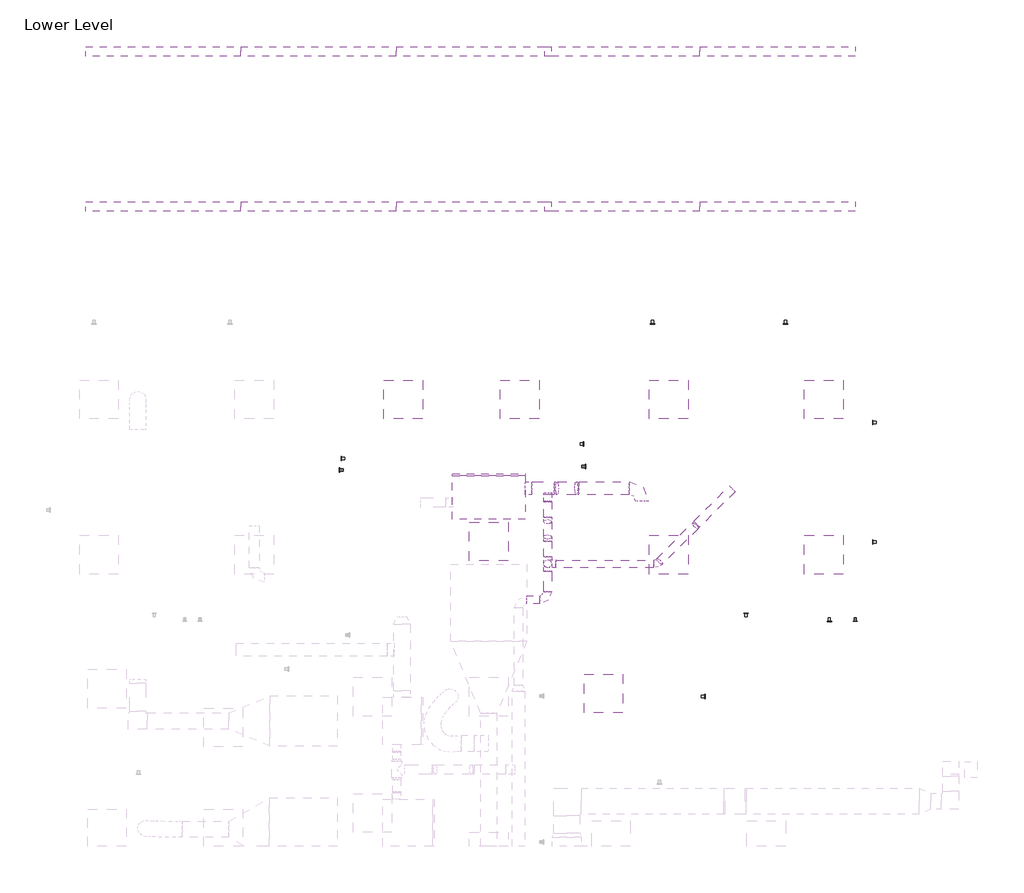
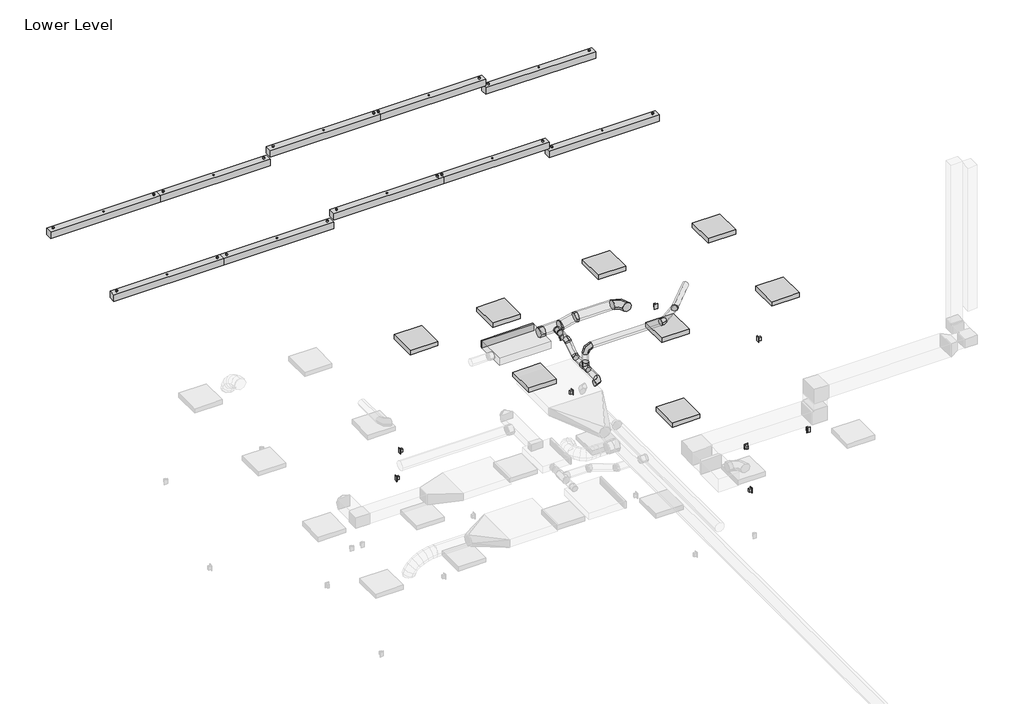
# One storey, part 4 of 4: 18 light fixtures, 13 duct fittings, 13 duct segments, 10 proxies, 3 switching devices.
"""IFC4 building model written with IfcOpenShell, lengths in millimetres."""

from ifc_helpers import new_model, si_unit, point, frame, frame_2d, origin, place, context, project, spatial, polyline, circle_curve, trimmed, segment, composite_curve, outline, extrude, transform, mapped, element, save
from components import mechanical_equipment_142123ad, duplex_receptacle_countertop_10251bba, rectangular_endcap_standard_4dcbd564, round_elbow_1_d_a253342a, round_elbow_1_d_c80420c1, round_elbow_1_d_50cd346b, round_elbow_1_d_92dd7378, round_elbow_1_d_adaedb42, round_elbow_1_d_ad049c3c, round_takeoff_standard_1127d77f, round_takeoff_standard_272bb003, round_tee_standard_ef45fe1c, suspended_fluorescent_strip_non_hosted_exterior_strip_light_cd59f7f1, troffer_corner_insert_2x2_3lamp_e67c7f8f

model = new_model("IFC4")

# Units and contexts
model_context = context("Model", 3, world=origin())
ifc_project = project(units=[si_unit("LENGTHUNIT", "METRE", prefix="MILLI")], contexts=[model_context])

# Site, building, storey
site = spatial("IfcSite", under=ifc_project)
building = spatial("IfcBuilding", under=site)
storey = spatial("IfcBuildingStorey", under=building, Name="Lower Level", Elevation=29972.0)

# Proxies
placement = place(None, origin())
mechanical_equipment_shape = mechanical_equipment_142123ad(model_context)
element("IfcBuildingElementProxy", 1, Name="DOAS Supply to Return Connection : DOAS Supply to Return Duct Connection", ObjectType="DOAS Supply to Return Connection : DOAS Supply to Return Duct Connection", at=placement, inside=storey, context=model_context, shape_type="MappedRepresentation", body=[
    mapped(mechanical_equipment_shape, transform((-12681.344811, 11699.3127622, 33121.6), x_axis=(0.0, -1.0000000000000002, 0.0), y_axis=(1.0000000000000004, 0.0, 0.0), z_axis=(0.0, 0.0, 1.0000000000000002))),
])
duplex_receptacle_countertop_shape = duplex_receptacle_countertop_10251bba(model_context)
element("IfcBuildingElementProxy", 2, Name="Duplex Receptacle : GFCI", ObjectType="Duplex Receptacle : GFCI", at=placement, inside=storey, context=model_context, shape_type="MappedRepresentation", body=[
    mapped(duplex_receptacle_countertop_shape, transform((-8256.1170491, 9811.7445005, 30429.2), x_axis=(1.0, 0.0, 0.0), y_axis=(0.0, 0.0, 1.0), z_axis=(0.0, -1.0, 0.0))),
])
element("IfcBuildingElementProxy", 3, Name="Duplex Receptacle : GFCI", ObjectType="Duplex Receptacle : GFCI", at=placement, inside=storey, context=model_context, shape_type="MappedRepresentation", body=[
    mapped(duplex_receptacle_countertop_shape, transform((-10209.8454607, 8630.2082884, 30429.2), x_axis=(0.0, 1.0, 0.0), y_axis=(0.0, 0.0, 1.0), z_axis=(1.0, 0.0, 0.0))),
])
element("IfcBuildingElementProxy", 4, Name="Duplex Receptacle : Standard", ObjectType="Duplex Receptacle : Standard", at=placement, inside=storey, context=model_context, shape_type="MappedRepresentation", body=[
    mapped(duplex_receptacle_countertop_shape, transform((-9566.6933679, 9935.5695005, 30429.2), x_axis=(-1.0, 0.0, 0.0), y_axis=(0.0, 0.0, 1.0), z_axis=(0.0, 1.0, 0.0))),
])
element("IfcBuildingElementProxy", 5, Name="Duplex Receptacle : Standard", ObjectType="Duplex Receptacle : Standard", at=placement, inside=storey, context=model_context, shape_type="MappedRepresentation", body=[
    mapped(duplex_receptacle_countertop_shape, transform((-7571.4204607, 11058.6291144, 30429.2), x_axis=(0.0, -1.0, 0.0), y_axis=(0.0, 0.0, 1.0), z_axis=(-1.0, 0.0, 0.0))),
])
element("IfcBuildingElementProxy", 6, Name="Duplex Receptacle : Standard", ObjectType="Duplex Receptacle : Standard", at=placement, inside=storey, context=model_context, shape_type="MappedRepresentation", body=[
    mapped(duplex_receptacle_countertop_shape, transform((-7571.4204607, 12931.5067489, 30429.2), x_axis=(0.0, -1.0, 0.0), y_axis=(0.0, 0.0, 1.0), z_axis=(-1.0, 0.0, 0.0))),
])
element("IfcBuildingElementProxy", 7, Name="Duplex Receptacle : Standard", ObjectType="Duplex Receptacle : Standard", at=placement, inside=storey, context=model_context, shape_type="MappedRepresentation", body=[
    mapped(duplex_receptacle_countertop_shape, transform((-8943.7287516, 14482.1695005, 30734.0), x_axis=(1.0, 0.0, 0.0), y_axis=(0.0, 0.0, 1.0), z_axis=(0.0, -1.0, 0.0))),
])
element("IfcBuildingElementProxy", 8, Name="Duplex Receptacle : Standard", ObjectType="Duplex Receptacle : Standard", at=placement, inside=storey, context=model_context, shape_type="MappedRepresentation", body=[
    mapped(duplex_receptacle_countertop_shape, transform((-11032.6434003, 14482.1695005, 30734.0), x_axis=(1.0, 0.0, 0.0), y_axis=(0.0, 0.0, 1.0), z_axis=(0.0, -1.0, 0.0))),
])
element("IfcBuildingElementProxy", 9, Name="Duplex Receptacle : Standard", ObjectType="Duplex Receptacle : Standard", at=placement, inside=storey, context=model_context, shape_type="MappedRepresentation", body=[
    mapped(duplex_receptacle_countertop_shape, transform((-12118.0204607, 12596.1305438, 30429.2), x_axis=(0.0, 1.0, 0.0), y_axis=(0.0, 0.0, 1.0), z_axis=(1.0, 0.0, 0.0))),
])
element("IfcBuildingElementProxy", 10, Name="Duplex Receptacle : Standard", ObjectType="Duplex Receptacle : Standard", at=placement, inside=storey, context=model_context, shape_type="MappedRepresentation", body=[
    mapped(duplex_receptacle_countertop_shape, transform((-15921.6704607, 12366.1582889, 30429.2), x_axis=(0.0, -1.0, 0.0), y_axis=(0.0, 0.0, 1.0), z_axis=(-1.0, 0.0, 0.0))),
])

# Duct fittings
rectangular_endcap_standard_shape = rectangular_endcap_standard_4dcbd564(model_context)
element("IfcDuctFitting", 11, ObjectType="Rectangular Endcap : Standard", at=placement, inside=storey, context=model_context, shape_type="MappedRepresentation", body=[
    mapped(rectangular_endcap_standard_shape, transform((-13605.5079607, 12098.6958297, 33121.5991366), x_axis=(0.0, 0.9999999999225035, 1.2449615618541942e-05), y_axis=(-1.0, 0.0, 0.0), z_axis=(0.0, -1.2449615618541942e-05, 0.9999999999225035))),
])
round_elbow_1_d_shape = round_elbow_1_d_a253342a(model_context)
element("IfcDuctFitting", 12, ObjectType="Round Elbow : 1 D", at=placement, inside=storey, context=model_context, shape_type="MappedRepresentation", body=[
    mapped(round_elbow_1_d_shape, transform((-11194.8892107, 11902.5127622, 33197.8), x_axis=(0.0, 1.0, 0.0), y_axis=(-1.0, 0.0, 0.0), z_axis=(0.0, 0.0, 1.0))),
])
round_elbow_1_d_2_shape = round_elbow_1_d_c80420c1(model_context)
element("IfcDuctFitting", 13, ObjectType="Round Elbow : 1 D", at=placement, inside=storey, context=model_context, shape_type="MappedRepresentation", body=[
    mapped(round_elbow_1_d_2_shape, transform((-12681.344811, 10147.8938374, 32918.4), x_axis=(1.0, 0.0, 0.0), y_axis=(0.0, 1.0, 0.0), z_axis=(0.0, 0.0, 1.0))),
])
element("IfcDuctFitting", 14, ObjectType="Round Elbow : 1 D", at=placement, inside=storey, context=model_context, shape_type="MappedRepresentation", body=[
    mapped(round_elbow_1_d_2_shape, transform((-12681.344811, 10713.399285, 33371.4045654), x_axis=(0.0, 0.0, 1.0), y_axis=(1.0, 0.0, 0.0), z_axis=(0.0, 1.0, 0.0))),
])
round_elbow_1_d_3_shape = round_elbow_1_d_50cd346b(model_context)
element("IfcDuctFitting", 15, ObjectType="Round Elbow : 1 D", at=placement, inside=storey, context=model_context, shape_type="MappedRepresentation", body=[
    mapped(round_elbow_1_d_3_shape, transform((-12681.344811, 11102.4899507, 32918.4), x_axis=(0.0, 1.0, 0.0), y_axis=(0.0, 0.0, 1.0), z_axis=(1.0, 0.0, 0.0))),
])
element("IfcDuctFitting", 16, ObjectType="Round Elbow : 1 D", at=placement, inside=storey, context=model_context, shape_type="MappedRepresentation", body=[
    mapped(round_elbow_1_d_3_shape, transform((-12681.344811, 11408.1197884, 33121.6), x_axis=(0.0, 0.832745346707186, 0.5536561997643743), y_axis=(0.0, 0.5536561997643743, -0.832745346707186), z_axis=(-1.0, 0.0, 0.0))),
])
round_elbow_1_d_4_shape = round_elbow_1_d_92dd7378(model_context)
element("IfcDuctFitting", 17, ObjectType="Round Elbow : 1 D", at=placement, inside=storey, context=model_context, shape_type="MappedRepresentation", body=[
    mapped(round_elbow_1_d_4_shape, transform((-10350.267801, 11323.544011, 33114.0593852), x_axis=(-0.7071067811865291, -0.7071067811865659, 0.0), y_axis=(0.0, 0.0, 1.0), z_axis=(-0.7071067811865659, 0.7071067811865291, 0.0))),
])
round_elbow_1_d_5_shape = round_elbow_1_d_adaedb42(model_context)
element("IfcDuctFitting", 18, ObjectType="Round Elbow : 1 D", at=placement, inside=storey, context=model_context, shape_type="MappedRepresentation", body=[
    mapped(round_elbow_1_d_5_shape, transform((-10960.412527, 10713.399285, 33371.4045654), x_axis=(1.0, 0.0, 0.0), y_axis=(0.0, 0.921396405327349, -0.3886240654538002), z_axis=(0.0, 0.3886240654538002, 0.921396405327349))),
])
round_elbow_1_d_6_shape = round_elbow_1_d_ad049c3c(model_context)
element("IfcDuctFitting", 19, ObjectType="Round Elbow : 1 D", at=placement, inside=storey, context=model_context, shape_type="MappedRepresentation", body=[
    mapped(round_elbow_1_d_6_shape, transform((-12553.9579607, 11902.5127622, 33121.6), x_axis=(1.0, 0.0, 0.0), y_axis=(0.0, 0.0, 1.0), z_axis=(0.0, -1.0, 0.0))),
])
element("IfcDuctFitting", 20, ObjectType="Round Elbow : 1 D", at=placement, inside=storey, context=model_context, shape_type="MappedRepresentation", body=[
    mapped(round_elbow_1_d_6_shape, transform((-12210.8892107, 11902.5127622, 33197.8), x_axis=(-1.0, 0.0, 0.0), y_axis=(0.0, 0.0, -1.0), z_axis=(0.0, -1.0, 0.0))),
])
round_takeoff_standard_shape = round_takeoff_standard_1127d77f(model_context)
element("IfcDuctFitting", 21, ObjectType="Round Takeoff : Standard", at=placement, inside=storey, context=model_context, shape_type="MappedRepresentation", body=[
    mapped(round_takeoff_standard_shape, transform((-13030.2079607, 11902.5127622, 33121.6), x_axis=(1.0, 0.0, 0.0), y_axis=(0.0, -1.0, 0.0), z_axis=(0.0, 0.0, -1.0))),
])
round_takeoff_standard_2_shape = round_takeoff_standard_272bb003(model_context)
element("IfcDuctFitting", 22, ObjectType="Round Takeoff : Standard", at=placement, inside=storey, context=model_context, shape_type="MappedRepresentation", body=[
    mapped(round_takeoff_standard_2_shape, transform((-12681.344811, 11800.9127622, 33121.6), x_axis=(0.0, -1.0, 0.0), y_axis=(-1.0, 0.0, 0.0), z_axis=(0.0, 0.0, -1.0))),
])
round_tee_standard_shape = round_tee_standard_ef45fe1c(model_context)
element("IfcDuctFitting", 23, ObjectType="Round Tee : Standard", at=placement, inside=storey, context=model_context, shape_type="MappedRepresentation", body=[
    mapped(round_tee_standard_shape, transform((-12681.344811, 10713.399285, 32918.4), x_axis=(0.0, 1.0, 0.0), y_axis=(0.0, 0.0, -1.0000000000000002), z_axis=(-1.0000000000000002, 0.0, 0.0))),
])

# Duct segments
element("IfcDuctSegment", 24, ObjectType="Mitered Elbows / Taps", at=placement, inside=storey, context=model_context, shape_type="SweptSolid", body=[
    extrude(outline(polyline([(0.0, -1150.6), (0.0, 0.0), (683.6848949, 0.0), (683.6848949, -1150.6), (0.0, -1150.6)])), frame((-13030.2079607, 12098.6968244, 33041.6991366), z_axis=(0.0, -1.2449615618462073e-05, 0.9999999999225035), x_axis=(0.0, -0.9999999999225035, -1.2449615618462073e-05)), (0.0, 0.0, 1.0), 159.8),
])
element("IfcDuctSegment", 25, ObjectType="Taps / Short Radius", at=placement, inside=storey, context=model_context, shape_type="SweptSolid", body=[
    extrude(outline(composite_curve([segment(trimmed(circle_curve(frame_2d((11902.5127622, 33121.6)), 101.6), [point((12004.1127622, 33121.6))], [point((11902.5127622, 33020.0))], False, "CARTESIAN"), True, "CONTINUOUS"), segment(trimmed(circle_curve(frame_2d((11902.5127622, 33121.6)), 101.6), [point((11902.5127622, 33020.0))], [point((11800.9127622, 33121.6))], False, "CARTESIAN"), True, "CONTINUOUS"), segment(trimmed(circle_curve(frame_2d((11902.5127622, 33121.6)), 101.6), [point((11800.9127622, 33121.6))], [point((11902.5127622, 33223.2))], False, "CARTESIAN"), True, "CONTINUOUS"), segment(trimmed(circle_curve(frame_2d((11902.5127622, 33121.6)), 101.6), [point((11902.5127622, 33223.2))], [point((12004.1127622, 33121.6))], False, "CARTESIAN"), True, "CONTINUOUS")], self_intersect=False)), frame((-12928.6079607, 0.0, 0.0), z_axis=(1.0, 0.0, 0.0), x_axis=(0.0, 1.0, 0.0)), (0.0, 0.0, 1.0), 352.3549939),
])
element("IfcDuctSegment", 26, ObjectType="Taps / Short Radius", at=placement, inside=storey, context=model_context, shape_type="SweptSolid", body=[
    extrude(outline(composite_curve([segment(trimmed(circle_curve(frame_2d((32918.4, -12681.344811)), 63.5), [point((32918.4, -12744.844811))], [point((32854.9, -12681.344811))], False, "CARTESIAN"), True, "CONTINUOUS"), segment(trimmed(circle_curve(frame_2d((32918.4, -12681.344811)), 63.5), [point((32854.9, -12681.344811))], [point((32918.4, -12617.844811))], False, "CARTESIAN"), True, "CONTINUOUS"), segment(trimmed(circle_curve(frame_2d((32918.4, -12681.344811)), 63.5), [point((32918.4, -12617.844811))], [point((32981.9, -12681.344811))], False, "CARTESIAN"), True, "CONTINUOUS"), segment(trimmed(circle_curve(frame_2d((32918.4, -12681.344811)), 63.5), [point((32981.9, -12681.344811))], [point((32918.4, -12744.844811))], False, "CARTESIAN"), True, "CONTINUOUS")], self_intersect=False)), frame((0.0, 10274.8938374, 0.0), z_axis=(0.0, 1.0, 0.0), x_axis=(0.0, 0.0, 1.0)), (0.0, 0.0, 1.0), 324.2054476),
])
element("IfcDuctSegment", 27, ObjectType="Taps / Short Radius", at=placement, inside=storey, context=model_context, shape_type="SweptSolid", body=[
    extrude(outline(composite_curve([segment(trimmed(circle_curve(frame_2d((10147.8938374, 32918.4)), 63.5), [point((10211.3938374, 32918.4))], [point((10147.8938374, 32854.9))], False, "CARTESIAN"), True, "CONTINUOUS"), segment(trimmed(circle_curve(frame_2d((10147.8938374, 32918.4)), 63.5), [point((10147.8938374, 32854.9))], [point((10084.3938374, 32918.4))], False, "CARTESIAN"), True, "CONTINUOUS"), segment(trimmed(circle_curve(frame_2d((10147.8938374, 32918.4)), 63.5), [point((10084.3938374, 32918.4))], [point((10147.8938374, 32981.9))], False, "CARTESIAN"), True, "CONTINUOUS"), segment(trimmed(circle_curve(frame_2d((10147.8938374, 32918.4)), 63.5), [point((10147.8938374, 32981.9))], [point((10211.3938374, 32918.4))], False, "CARTESIAN"), True, "CONTINUOUS")], self_intersect=False)), frame((-13011.544811, 0.0, 0.0), z_axis=(1.0, 0.0, 0.0), x_axis=(0.0, 1.0, 0.0)), (0.0, 0.0, 1.0), 203.2),
])
element("IfcDuctSegment", 28, ObjectType="Taps / Short Radius", at=placement, inside=storey, context=model_context, shape_type="SweptSolid", body=[
    extrude(outline(composite_curve([segment(trimmed(circle_curve(frame_2d((32918.4, -12681.344811)), 63.5), [point((32918.4, -12617.844811))], [point((32981.9, -12681.344811))], False, "CARTESIAN"), True, "CONTINUOUS"), segment(trimmed(circle_curve(frame_2d((32918.4, -12681.344811)), 63.5), [point((32981.9, -12681.344811))], [point((32918.4, -12744.844811))], False, "CARTESIAN"), True, "CONTINUOUS"), segment(trimmed(circle_curve(frame_2d((32918.4, -12681.344811)), 63.5), [point((32918.4, -12744.844811))], [point((32854.9, -12681.344811))], False, "CARTESIAN"), True, "CONTINUOUS"), segment(trimmed(circle_curve(frame_2d((32918.4, -12681.344811)), 63.5), [point((32854.9, -12681.344811))], [point((32918.4, -12617.844811))], False, "CARTESIAN"), True, "CONTINUOUS")], self_intersect=False)), frame((0.0, 10827.699285, 0.0), z_axis=(0.0, 1.0, 0.0), x_axis=(0.0, 0.0, 1.0)), (0.0, 0.0, 1.0), 236.4250861),
])
element("IfcDuctSegment", 29, ObjectType="Taps / Short Radius", at=placement, inside=storey, context=model_context, shape_type="SweptSolid", body=[
    extrude(outline(composite_curve([segment(trimmed(circle_curve(frame_2d((0.0, 63.4999999)), 63.5), [point((63.5, 63.4999999))], [point((0.0, 0.0))], False, "CARTESIAN"), True, "CONTINUOUS"), segment(trimmed(circle_curve(frame_2d((0.0, 63.4999999)), 63.5), [point((0.0, 0.0))], [point((-63.5, 63.4999999))], False, "CARTESIAN"), True, "CONTINUOUS"), segment(trimmed(circle_curve(frame_2d((0.0, 63.4999999)), 63.5), [point((-63.5, 63.4999999))], [point((0.0, 126.9999999))], False, "CARTESIAN"), True, "CONTINUOUS"), segment(trimmed(circle_curve(frame_2d((0.0, 63.4999999)), 63.5), [point((0.0, 126.9999999))], [point((63.5, 63.4999999))], False, "CARTESIAN"), True, "CONTINUOUS")], self_intersect=False)), frame((-12681.344811, 11099.2815399, 32992.5206705), z_axis=(1.4799828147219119e-12, 0.8327453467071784, 0.5536561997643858), x_axis=(1.0, -1.2292389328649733e-12, 0.0)), (0.0, 0.0, 1.0), 290.2836058),
])
element("IfcDuctSegment", 30, ObjectType="Taps / Short Radius", at=placement, inside=storey, context=model_context, shape_type="SweptSolid", body=[
    extrude(outline(composite_curve([segment(trimmed(circle_curve(frame_2d((33121.6, -12681.344811)), 63.5), [point((33121.6, -12617.844811))], [point((33185.1, -12681.344811))], False, "CARTESIAN"), True, "CONTINUOUS"), segment(trimmed(circle_curve(frame_2d((33121.6, -12681.344811)), 63.5), [point((33185.1, -12681.344811))], [point((33121.6, -12744.844811))], False, "CARTESIAN"), True, "CONTINUOUS"), segment(trimmed(circle_curve(frame_2d((33121.6, -12681.344811)), 63.5), [point((33121.6, -12744.844811))], [point((33058.1, -12681.344811))], False, "CARTESIAN"), True, "CONTINUOUS"), segment(trimmed(circle_curve(frame_2d((33121.6, -12681.344811)), 63.5), [point((33058.1, -12681.344811))], [point((33121.6, -12617.844811))], False, "CARTESIAN"), True, "CONTINUOUS")], self_intersect=False)), frame((0.0, 11446.4853679, 0.0), z_axis=(0.0, 1.0, 0.0), x_axis=(0.0, 0.0, 1.0)), (0.0, 0.0, 1.0), 240.1273943),
])
element("IfcDuctSegment", 31, ObjectType="Taps / Short Radius", at=placement, inside=storey, context=model_context, shape_type="SweptSolid", body=[
    extrude(outline(composite_curve([segment(trimmed(circle_curve(frame_2d((-12681.344811, 10713.399285)), 63.5), [point((-12681.344811, 10649.899285))], [point((-12744.844811, 10713.399285))], False, "CARTESIAN"), True, "CONTINUOUS"), segment(trimmed(circle_curve(frame_2d((-12681.344811, 10713.399285)), 63.5), [point((-12744.844811, 10713.399285))], [point((-12681.344811, 10776.899285))], False, "CARTESIAN"), True, "CONTINUOUS"), segment(trimmed(circle_curve(frame_2d((-12681.344811, 10713.399285)), 63.5), [point((-12681.344811, 10776.899285))], [point((-12617.844811, 10713.399285))], False, "CARTESIAN"), True, "CONTINUOUS"), segment(trimmed(circle_curve(frame_2d((-12681.344811, 10713.399285)), 63.5), [point((-12617.844811, 10713.399285))], [point((-12681.344811, 10649.899285))], False, "CARTESIAN"), True, "CONTINUOUS")], self_intersect=False)), frame((0.0, 0.0, 33032.7), z_axis=(0.0, 0.0, 1.0), x_axis=(1.0, 0.0, 0.0)), (0.0, 0.0, 1.0), 211.7045654),
])
element("IfcDuctSegment", 32, ObjectType="Taps / Short Radius", at=placement, inside=storey, context=model_context, shape_type="SweptSolid", body=[
    extrude(outline(composite_curve([segment(trimmed(circle_curve(frame_2d((0.0, -63.5)), 63.5), [point((-63.5, -63.5))], [point((0.0, 0.0))], False, "CARTESIAN"), True, "CONTINUOUS"), segment(trimmed(circle_curve(frame_2d((0.0, -63.5)), 63.5), [point((0.0, 0.0))], [point((63.5, -63.5))], False, "CARTESIAN"), True, "CONTINUOUS"), segment(trimmed(circle_curve(frame_2d((0.0, -63.5)), 63.5), [point((63.5, -63.5))], [point((0.0, -127.0))], False, "CARTESIAN"), True, "CONTINUOUS"), segment(trimmed(circle_curve(frame_2d((0.0, -63.5)), 63.5), [point((0.0, -127.0))], [point((-63.5, -63.5))], False, "CARTESIAN"), True, "CONTINUOUS")], self_intersect=False)), frame((-10337.1616074, 11336.6502046, 33050.5593852), z_axis=(0.7071067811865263, 0.7071067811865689, 0.0), x_axis=(0.7071067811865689, -0.7071067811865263, 0.0)), (0.0, 0.0, 1.0), 785.0995942),
])
element("IfcDuctSegment", 33, ObjectType="Taps / Short Radius", at=placement, inside=storey, context=model_context, shape_type="SweptSolid", body=[
    extrude(outline(composite_curve([segment(trimmed(circle_curve(frame_2d((0.0, 63.5000001)), 63.5), [point((17.4497182, 124.5553629))], [point((61.0553628, 46.0502819))], False, "CARTESIAN"), True, "CONTINUOUS"), segment(trimmed(circle_curve(frame_2d((0.0, 63.5000001)), 63.5), [point((61.0553628, 46.0502819))], [point((-17.4497182, 2.4446372))], False, "CARTESIAN"), True, "CONTINUOUS"), segment(trimmed(circle_curve(frame_2d((0.0, 63.5000001)), 63.5), [point((-17.4497182, 2.4446372))], [point((-61.0553629, 80.9497183))], False, "CARTESIAN"), True, "CONTINUOUS"), segment(trimmed(circle_curve(frame_2d((0.0, 63.5000001)), 63.5), [point((-61.0553629, 80.9497183))], [point((17.4497182, 124.5553629))], False, "CARTESIAN"), True, "CONTINUOUS")], self_intersect=False)), frame((-10362.8273199, 11286.306864, 33060.8480331), z_axis=(-0.6776125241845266, -0.6776125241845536, 0.28580156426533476), x_axis=(0.735419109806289, -0.6243497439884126, 0.2633365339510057)), (0.0, 0.0, 1.0), 826.2248131),
])
element("IfcDuctSegment", 34, ObjectType="Taps / Short Radius", at=placement, inside=storey, context=model_context, shape_type="SweptSolid", body=[
    extrude(outline(composite_curve([segment(trimmed(circle_curve(frame_2d((10713.399285, 33371.4045654)), 63.5), [point((10738.0769132, 33429.9132371))], [point((10771.9079568, 33346.7269372))], False, "CARTESIAN"), True, "CONTINUOUS"), segment(trimmed(circle_curve(frame_2d((10713.399285, 33371.4045654)), 63.5), [point((10771.9079568, 33346.7269372))], [point((10688.7216569, 33312.8958937))], False, "CARTESIAN"), True, "CONTINUOUS"), segment(trimmed(circle_curve(frame_2d((10713.399285, 33371.4045654)), 63.5), [point((10688.7216569, 33312.8958937))], [point((10654.8906133, 33396.0821936))], False, "CARTESIAN"), True, "CONTINUOUS"), segment(trimmed(circle_curve(frame_2d((10713.399285, 33371.4045654)), 63.5), [point((10654.8906133, 33396.0821936))], [point((10738.0769132, 33429.9132371))], False, "CARTESIAN"), True, "CONTINUOUS")], self_intersect=False)), frame((-12554.344811, 0.0, 0.0), z_axis=(1.0, 0.0, 0.0), x_axis=(0.0, 1.0, 0.0)), (0.0, 0.0, 1.0), 1538.258983),
])
element("IfcDuctSegment", 35, ObjectType="Taps / Short Radius", at=placement, inside=storey, context=model_context, shape_type="SweptSolid", body=[
    extrude(outline(composite_curve([segment(trimmed(circle_curve(frame_2d((11902.5127622, 33197.8)), 101.6), [point((12004.1127622, 33197.8))], [point((11902.5127622, 33096.2))], False, "CARTESIAN"), True, "CONTINUOUS"), segment(trimmed(circle_curve(frame_2d((11902.5127622, 33197.8)), 101.6), [point((11902.5127622, 33096.2))], [point((11800.9127622, 33197.8))], False, "CARTESIAN"), True, "CONTINUOUS"), segment(trimmed(circle_curve(frame_2d((11902.5127622, 33197.8)), 101.6), [point((11800.9127622, 33197.8))], [point((11902.5127622, 33299.4))], False, "CARTESIAN"), True, "CONTINUOUS"), segment(trimmed(circle_curve(frame_2d((11902.5127622, 33197.8)), 101.6), [point((11902.5127622, 33299.4))], [point((12004.1127622, 33197.8))], False, "CARTESIAN"), True, "CONTINUOUS")], self_intersect=False)), frame((-12188.5942046, 0.0, 0.0), z_axis=(1.0, 0.0, 0.0), x_axis=(0.0, 1.0, 0.0)), (0.0, 0.0, 1.0), 790.5049939),
])
element("IfcDuctSegment", 36, ObjectType="Taps / Short Radius", at=placement, inside=storey, context=model_context, shape_type="SweptSolid", body=[
    extrude(outline(composite_curve([segment(trimmed(circle_curve(frame_2d((0.0, 101.6)), 101.6), [point((0.0, 0.0))], [point((-101.6, 101.6))], False, "CARTESIAN"), True, "CONTINUOUS"), segment(trimmed(circle_curve(frame_2d((0.0, 101.6)), 101.6), [point((-101.6, 101.6))], [point((0.0, 203.2))], False, "CARTESIAN"), True, "CONTINUOUS"), segment(trimmed(circle_curve(frame_2d((0.0, 101.6)), 101.6), [point((0.0, 203.2))], [point((101.6, 101.6))], False, "CARTESIAN"), True, "CONTINUOUS"), segment(trimmed(circle_curve(frame_2d((0.0, 101.6)), 101.6), [point((101.6, 101.6))], [point((0.0, 0.0))], False, "CARTESIAN"), True, "CONTINUOUS")], self_intersect=False)), frame((-12532.1933605, 11800.9127622, 33126.4341988), z_axis=(0.976209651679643, 0.0, 0.2168287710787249), x_axis=(0.2168287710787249, 0.0, -0.976209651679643)), (0.0, 0.0, 1.0), 306.8393651),
])

# Light fixtures
suspended_fluorescent_strip_non_hosted_exterior_strip_light_shape = suspended_fluorescent_strip_non_hosted_exterior_strip_light_cd59f7f1(model_context)
element("IfcLightFixture", 37, ObjectType="Suspended Fluorescent Strip - Non-Hosted : Exterior Strip Light 1x8 - 120V Normal", at=placement, inside=storey, context=model_context, shape_type="MappedRepresentation", body=[
    mapped(suspended_fluorescent_strip_non_hosted_exterior_strip_light_shape, transform((-18720.6103906, 16325.069275, 33629.6), x_axis=(1.0, 0.0, 0.0), y_axis=(0.0, 1.0, 0.0), z_axis=(0.0, 0.0, 1.0))),
])
element("IfcLightFixture", 38, ObjectType="Suspended Fluorescent Strip - Non-Hosted : Exterior Strip Light 1x8 - 120V Normal", at=placement, inside=storey, context=model_context, shape_type="MappedRepresentation", body=[
    mapped(suspended_fluorescent_strip_non_hosted_exterior_strip_light_shape, transform((-18720.6103906, 18763.469275, 33629.6), x_axis=(1.0, 0.0, 0.0), y_axis=(0.0, 1.0, 0.0), z_axis=(0.0, 0.0, 1.0))),
])
element("IfcLightFixture", 39, ObjectType="Suspended Fluorescent Strip - Non-Hosted : Exterior Strip Light 1x8 - 120V Normal", at=placement, inside=storey, context=model_context, shape_type="MappedRepresentation", body=[
    mapped(suspended_fluorescent_strip_non_hosted_exterior_strip_light_shape, transform((-16282.2103906, 16325.069275, 33629.6), x_axis=(1.0, 0.0, 0.0), y_axis=(0.0, 1.0, 0.0), z_axis=(0.0, 0.0, 1.0))),
])
element("IfcLightFixture", 40, ObjectType="Suspended Fluorescent Strip - Non-Hosted : Exterior Strip Light 1x8 - 120V Normal", at=placement, inside=storey, context=model_context, shape_type="MappedRepresentation", body=[
    mapped(suspended_fluorescent_strip_non_hosted_exterior_strip_light_shape, transform((-16282.2103906, 18763.469275, 33629.6), x_axis=(1.0, 0.0, 0.0), y_axis=(0.0, 1.0, 0.0), z_axis=(0.0, 0.0, 1.0))),
])
element("IfcLightFixture", 41, ObjectType="Suspended Fluorescent Strip - Non-Hosted : Exterior Strip Light 1x8 - 120V Normal", at=placement, inside=storey, context=model_context, shape_type="MappedRepresentation", body=[
    mapped(suspended_fluorescent_strip_non_hosted_exterior_strip_light_shape, transform((-13843.8103906, 16325.069275, 33832.8), x_axis=(1.0, 0.0, 0.0), y_axis=(0.0, 1.0, 0.0), z_axis=(0.0, 0.0, 1.0))),
])
element("IfcLightFixture", 42, ObjectType="Suspended Fluorescent Strip - Non-Hosted : Exterior Strip Light 1x8 - 120V Normal", at=placement, inside=storey, context=model_context, shape_type="MappedRepresentation", body=[
    mapped(suspended_fluorescent_strip_non_hosted_exterior_strip_light_shape, transform((-13843.8103906, 18763.469275, 33832.8), x_axis=(1.0, 0.0, 0.0), y_axis=(0.0, 1.0, 0.0), z_axis=(0.0, 0.0, 1.0))),
])
element("IfcLightFixture", 43, ObjectType="Suspended Fluorescent Strip - Non-Hosted : Exterior Strip Light 1x8 - 120V Normal", at=placement, inside=storey, context=model_context, shape_type="MappedRepresentation", body=[
    mapped(suspended_fluorescent_strip_non_hosted_exterior_strip_light_shape, transform((-11507.0103906, 16325.069275, 33832.8), x_axis=(1.0, 0.0, 0.0), y_axis=(0.0, 1.0, 0.0), z_axis=(0.0, 0.0, 1.0))),
])
element("IfcLightFixture", 44, ObjectType="Suspended Fluorescent Strip - Non-Hosted : Exterior Strip Light 1x8 - 120V Normal", at=placement, inside=storey, context=model_context, shape_type="MappedRepresentation", body=[
    mapped(suspended_fluorescent_strip_non_hosted_exterior_strip_light_shape, transform((-11507.0103906, 18763.469275, 33832.8), x_axis=(1.0, 0.0, 0.0), y_axis=(0.0, 1.0, 0.0), z_axis=(0.0, 0.0, 1.0))),
])
element("IfcLightFixture", 45, ObjectType="Suspended Fluorescent Strip - Non-Hosted : Exterior Strip Light 1x8 - 120V Normal", at=placement, inside=storey, context=model_context, shape_type="MappedRepresentation", body=[
    mapped(suspended_fluorescent_strip_non_hosted_exterior_strip_light_shape, transform((-9068.6103906, 16325.069275, 33629.6), x_axis=(1.0, 0.0, 0.0), y_axis=(0.0, 1.0, 0.0), z_axis=(0.0, 0.0, 1.0))),
])
element("IfcLightFixture", 46, ObjectType="Suspended Fluorescent Strip - Non-Hosted : Exterior Strip Light 1x8 - 120V Normal", at=placement, inside=storey, context=model_context, shape_type="MappedRepresentation", body=[
    mapped(suspended_fluorescent_strip_non_hosted_exterior_strip_light_shape, transform((-9068.6103906, 18763.469275, 33629.6), x_axis=(1.0, 0.0, 0.0), y_axis=(0.0, 1.0, 0.0), z_axis=(0.0, 0.0, 1.0))),
])
troffer_corner_insert_2x2_3lamp_shape = troffer_corner_insert_2x2_3lamp_e67c7f8f(model_context)
element("IfcLightFixture", 47, ObjectType="Troffer Corner Insert : 2x2 3Lamp", at=placement, inside=storey, context=model_context, shape_type="MappedRepresentation", body=[
    mapped(troffer_corner_insert_2x2_3lamp_shape, transform((-11804.4892107, 8675.0945005, 30276.8), x_axis=(1.0, 0.0, 0.0), y_axis=(0.0, 1.0, 0.0), z_axis=(0.0, 0.0, 1.0))),
])
element("IfcLightFixture", 48, ObjectType="Troffer Corner Insert : 2x2 3Lamp", at=placement, inside=storey, context=model_context, shape_type="MappedRepresentation", body=[
    mapped(troffer_corner_insert_2x2_3lamp_shape, transform((-10779.7579607, 10856.3195005, 30581.6), x_axis=(1.0, 0.0, 0.0), y_axis=(0.0, 1.0, 0.0), z_axis=(0.0, 0.0, 1.0))),
])
element("IfcLightFixture", 49, ObjectType="Troffer Corner Insert : 2x2 3Lamp", at=placement, inside=storey, context=model_context, shape_type="MappedRepresentation", body=[
    mapped(troffer_corner_insert_2x2_3lamp_shape, transform((-10779.7579607, 13294.7195005, 30581.6), x_axis=(1.0, 0.0, 0.0), y_axis=(0.0, 1.0, 0.0), z_axis=(0.0, 0.0, 1.0))),
])
element("IfcLightFixture", 50, ObjectType="Troffer Corner Insert : 2x2 3Lamp", at=placement, inside=storey, context=model_context, shape_type="MappedRepresentation", body=[
    mapped(troffer_corner_insert_2x2_3lamp_shape, transform((-8341.3579607, 13294.7195005, 30581.6), x_axis=(1.0, 0.0, 0.0), y_axis=(0.0, 1.0, 0.0), z_axis=(0.0, 0.0, 1.0))),
])
element("IfcLightFixture", 51, ObjectType="Troffer Corner Insert : 2x2 3Lamp", at=placement, inside=storey, context=model_context, shape_type="MappedRepresentation", body=[
    mapped(troffer_corner_insert_2x2_3lamp_shape, transform((-8341.3579607, 10856.3195005, 30581.6), x_axis=(1.0, 0.0, 0.0), y_axis=(0.0, 1.0, 0.0), z_axis=(0.0, 0.0, 1.0))),
])
element("IfcLightFixture", 52, ObjectType="Troffer Corner Insert : 2x2 3Lamp", at=placement, inside=storey, context=model_context, shape_type="MappedRepresentation", body=[
    mapped(troffer_corner_insert_2x2_3lamp_shape, transform((-13605.5079607, 11064.2820005, 30276.8), x_axis=(1.0, 0.0, 0.0), y_axis=(0.0, 1.0, 0.0), z_axis=(0.0, 0.0, 1.0))),
])
element("IfcLightFixture", 53, ObjectType="Troffer Corner Insert : 2x2 3Lamp", at=placement, inside=storey, context=model_context, shape_type="MappedRepresentation", body=[
    mapped(troffer_corner_insert_2x2_3lamp_shape, transform((-14950.1204607, 13294.7195005, 30276.8), x_axis=(1.0, 0.0, 0.0), y_axis=(0.0, 1.0, 0.0), z_axis=(0.0, 0.0, 1.0))),
])
element("IfcLightFixture", 54, ObjectType="Troffer Corner Insert : 2x2 3Lamp", at=placement, inside=storey, context=model_context, shape_type="MappedRepresentation", body=[
    mapped(troffer_corner_insert_2x2_3lamp_shape, transform((-13121.3204607, 13294.7195005, 30276.8), x_axis=(1.0, 0.0, 0.0), y_axis=(0.0, 1.0, 0.0), z_axis=(0.0, 0.0, 1.0))),
])

# Switching devices
element("IfcSwitchingDevice", 55, ObjectType="Lighting Switches : Single Pole", at=placement, inside=storey, context=model_context, shape_type="MappedRepresentation", body=[
    mapped(duplex_receptacle_countertop_shape, transform((-12091.0329607, 12243.4448296, 31191.2), x_axis=(0.0, 1.0, 0.0), y_axis=(0.0, 0.0, 1.0), z_axis=(1.0, 0.0, 0.0))),
])
element("IfcSwitchingDevice", 56, ObjectType="Lighting Switches : Single Pole", at=placement, inside=storey, context=model_context, shape_type="MappedRepresentation", body=[
    mapped(duplex_receptacle_countertop_shape, transform((-15948.6579607, 12189.8195005, 31191.2), x_axis=(0.0, -1.0, 0.0), y_axis=(0.0, 0.0, 1.0), z_axis=(-1.0, 0.0, 0.0))),
])
element("IfcSwitchingDevice", 57, ObjectType="Lighting Switches : Single Pole", at=placement, inside=storey, context=model_context, shape_type="MappedRepresentation", body=[
    mapped(duplex_receptacle_countertop_shape, transform((-7848.5670672, 9811.7445005, 31191.2), x_axis=(1.0, 0.0, 0.0), y_axis=(0.0, 0.0, 1.0), z_axis=(0.0, -1.0, 0.0))),
])

save(model, "model.ifc")
